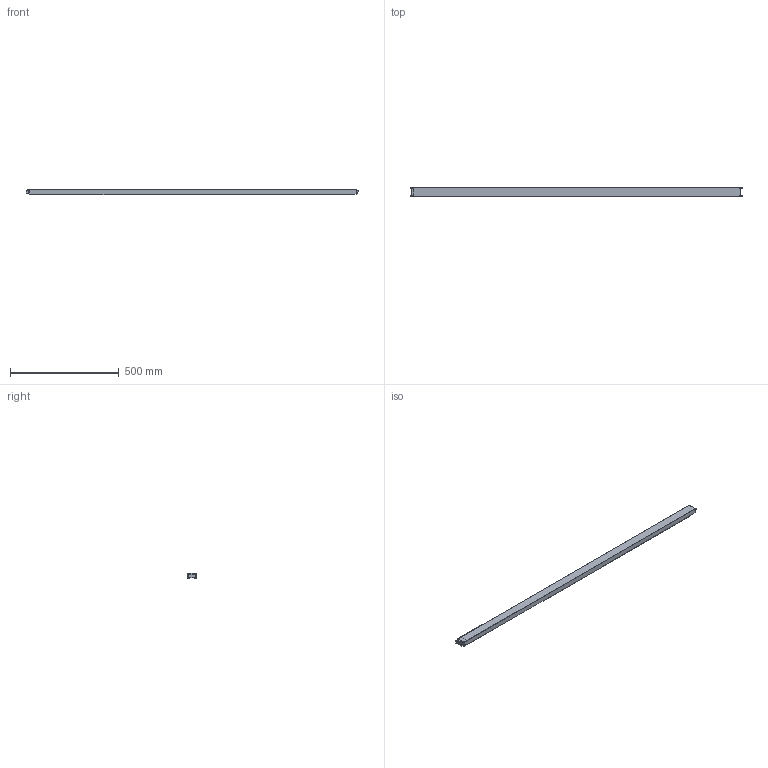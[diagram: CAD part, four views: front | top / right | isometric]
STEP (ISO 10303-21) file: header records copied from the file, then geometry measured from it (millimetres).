
FILE_DESCRIPTION( ( 'STEP AP214' ), '1' );
FILE_NAME( 'p:/temp/worker_133/temp/exporttempdir_3152_255_kYTy3/format_0/CLPF1600(0).stp', '2021-03-15T14:40:23', ( 'License CC BY-ND 4.0' ), ( 'CADENAS' ), ' ', 'PARTsolutions', ' ' );
FILE_SCHEMA( ( 'AUTOMOTIVE_DESIGN { 1 0 10303 214 1 1 1 1 }' ) );
Length unit declared in the file: millimetre
Products named in the file (3): CLPF1600(0); _CLPF1600(0)_P1; _CLPFXXXX(0)_P2
Assembly tree (2 placements, depth 2):
  CLPF1600(0)
    _CLPF1600(0)_P1
    _CLPFXXXX(0)_P2
Bounding box: 1524.47 x 40 x 25 mm (x, y, z)
Volume: 239441 mm3; surface area: 321553.9 mm2
Topology: 2 solids, 2 shells, 94 faces, 282 edges, 188 vertices
Faces by surface type: plane 90, cylinder 4
Entity records: 3928 total; most frequent: CARTESIAN_POINT 567, ORIENTED_EDGE 564, DIRECTION 484, EDGE_CURVE 282, LINE 274, VECTOR 274, VERTEX_POINT 188, AXIS2_PLACEMENT_3D 105
